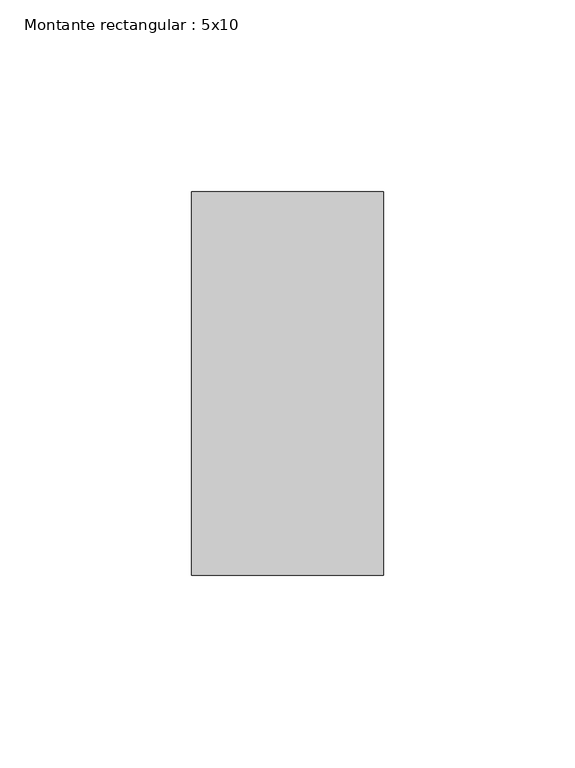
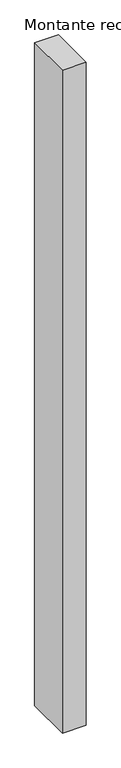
"""IFC4 building model written with IfcOpenShell, lengths in millimetres: member geometry, Montante rectangular : 5x10."""

from ifc_helpers import new_model, si_unit, frame, origin, place, context, project, spatial, polyline, outline, extrude, source, transform, mapped, element, save


def montante_rectangular_5x10_45e54374(model_context):
    return source(origin(), model_context, "Body", "SweptSolid", [
        extrude(outline(polyline([(25.0, 50.0), (25.0, -50.0), (-25.0, -50.0), (-25.0, 50.0), (25.0, 50.0)])), frame((0.0, 0.0, -1463.9996077), z_axis=(0.0, 0.0, 1.0), x_axis=(1.0, 0.0, 0.0)), (0.0, 0.0, 1.0), 1463.9996077),
    ])


if __name__ == "__main__":
    model = new_model("IFC4")
    model_context = context("Model", 3, world=origin())
    ifc_project = project(units=[si_unit("LENGTHUNIT", "METRE", prefix="MILLI")], contexts=[model_context])
    site = spatial("IfcSite", under=ifc_project)
    building = spatial("IfcBuilding", under=site)
    placement = place(None, origin())
    montante_rectangular_5x10_shape = montante_rectangular_5x10_45e54374(model_context)
    element("IfcMember", 1, ObjectType="Montante rectangular : 5x10", at=placement, inside=building, context=model_context, shape_type="MappedRepresentation", body=[
        mapped(montante_rectangular_5x10_shape, transform((0.0, 0.0, 0.0), x_axis=(1.0, 0.0, 0.0), y_axis=(0.0, 1.0, 0.0), z_axis=(0.0, 0.0, 1.0))),
    ])
    save(model, "model.ifc")
